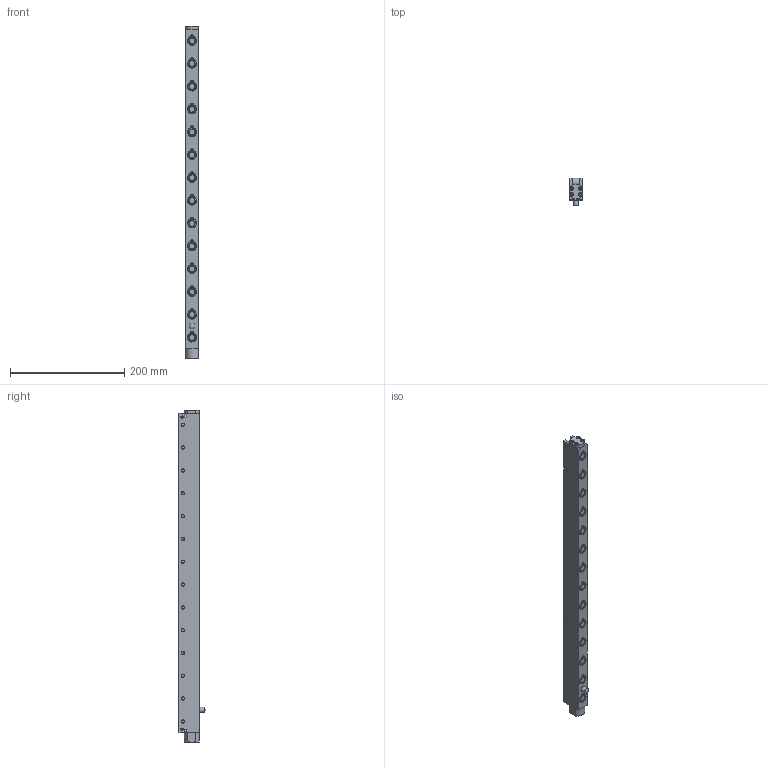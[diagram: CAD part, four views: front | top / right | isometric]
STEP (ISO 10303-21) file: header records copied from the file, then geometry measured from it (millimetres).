
FILE_DESCRIPTION(/* description */ (''),/* implementation_level */ '2;1');
FILE_NAME(/* name */ 'S:\EASCN Vault\Designs\Standard Part\DIE LIFTERS\EHR\EHR- 3D step\EHR22 - 3D step complete serie\EHR22-14.stp',/* time_stamp */ '2019-07-30T16:18:44+08:00',/* author */ ('yue.yang'),/* organization */ (''),/* preprocessor_version */ 'ST-DEVELOPER v17',/* originating_system */ 'Autodesk Inventor 2019',/* authorisation */ '');
FILE_SCHEMA (('AUTOMOTIVE_DESIGN { 1 0 10303 214 3 1 1 }'));
Length unit declared in the file: millimetre
Products named in the file (1): EHR22-14_Shrinkwrap_1
Bounding box: 21.8 x 48.05 x 582 mm (x, y, z)
Volume: 353482.3 mm3; surface area: 138756.2 mm2
Topology: 1 solids, 1 shells, 931 faces, 2639 edges, 1833 vertices
Faces by surface type: cylinder 308, plane 272, cone 168, torus 154, sphere 29
Full cylindrical faces by diameter (mm): 3 x9, 3.2 x8, 4 x8, 5 x56, 6 x23, 8.566 x1, 10 x3, 11 x14, 12.5 x28, 13.4 x14, 13.8 x14, 15.95 x28, 16 x42
Entity records: 34079 total; most frequent: CARTESIAN_POINT 7732, DIRECTION 5832, ORIENTED_EDGE 5234, EDGE_CURVE 2617, AXIS2_PLACEMENT_3D 2569, VERTEX_POINT 1833, CIRCLE 1637, EDGE_LOOP 1120
